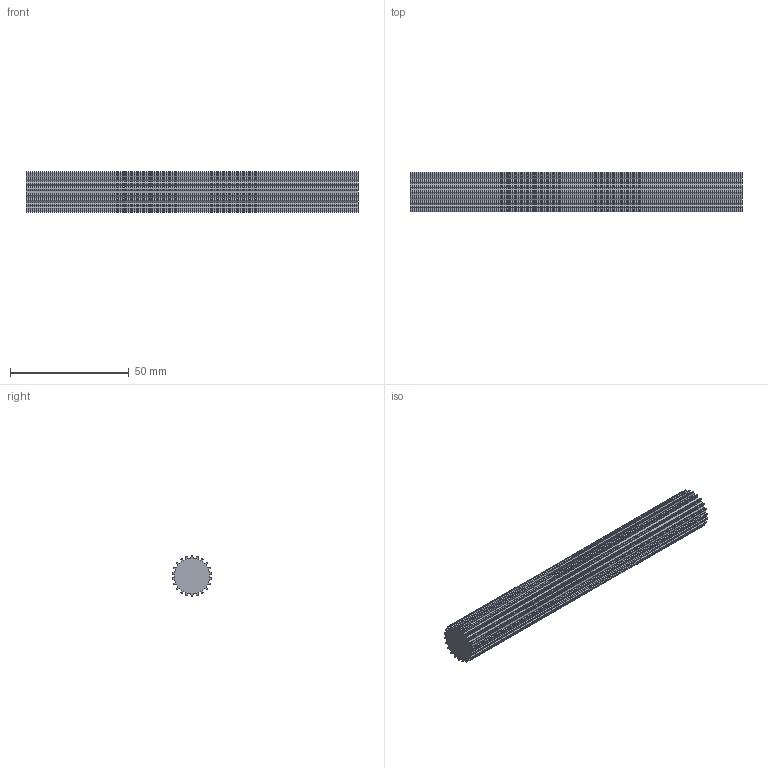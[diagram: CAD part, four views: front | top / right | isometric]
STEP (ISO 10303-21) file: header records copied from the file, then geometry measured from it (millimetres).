
FILE_DESCRIPTION( ( 'STEP AP214' ), '1' );
FILE_NAME( 'C:/Users/StangenbergN/Documents/CAD_Step/1/16092200.stp', '2019-07-25T19:41:14', ( '' ), ( '' ), ' ', 'PARTsolutions', ' ' );
FILE_SCHEMA( ( 'AUTOMOTIVE_DESIGN { 1 0 10303 214 1 1 1 1 }' ) );
Length unit declared in the file: millimetre
Products named in the file (1): _16092200
Bounding box: 140 x 16.86 x 17.01 mm (x, y, z)
Volume: 27236.7 mm3; surface area: 11283.6 mm2
Topology: 1 solids, 1 shells, 178 faces, 528 edges, 352 vertices
Faces by surface type: cylinder 110, plane 68
Entity records: 7492 total; most frequent: DIRECTION 1106, CARTESIAN_POINT 1059, ORIENTED_EDGE 1056, EDGE_CURVE 528, AXIS2_PLACEMENT_3D 399, VERTEX_POINT 352, LINE 308, VECTOR 308
